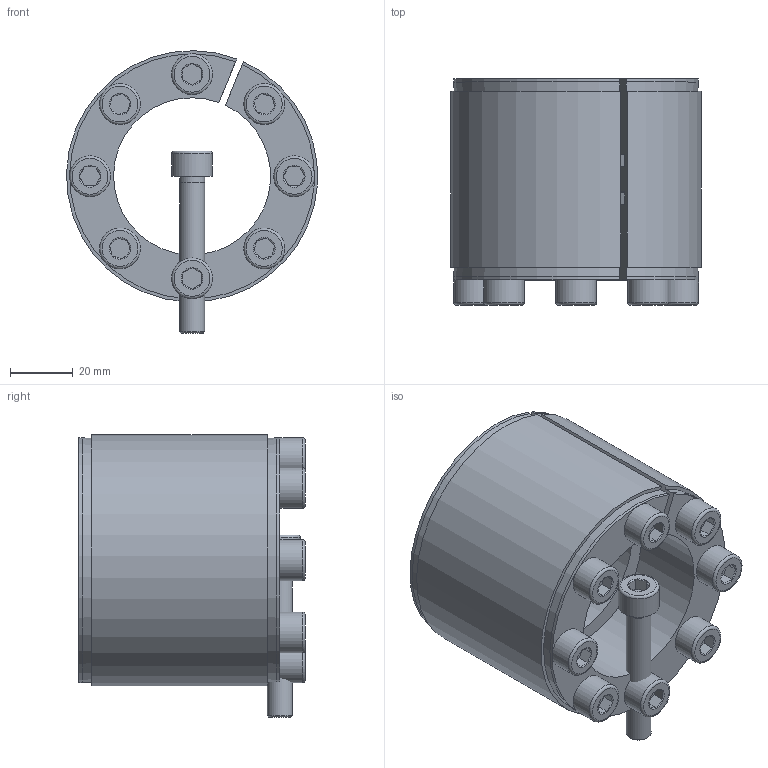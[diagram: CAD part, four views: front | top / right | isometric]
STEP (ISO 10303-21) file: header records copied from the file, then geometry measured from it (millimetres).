
FILE_DESCRIPTION( ( 'Unknown' ), '1' );
FILE_NAME( 'C:/Dokumente und Einstellungen/Sven/Desktop/homepage/cad - homepage/KBS11/KBS 11 - 50 x 80.stp', 'Unknown', ( 'Unknown' ), ( 'Unknown' ), 'XStep 1.0', 'Unknown', ' ' );
FILE_SCHEMA( ( 'automotive_design' ) );
Length unit declared in the file: millimetre
Products named in the file (3): Assem1; KBS 11 - 50 x 80; ISO EN DIN 4762 M8x50
Bounding box: 79.9 x 72 x 89.99 mm (x, y, z)
Volume: 330186.2 mm3; surface area: 123203.5 mm2
Topology: 11 solids, 11 shells, 313 faces, 669 edges, 414 vertices
Faces by surface type: plane 128, cylinder 96, cone 71, torus 18
Full cylindrical faces by diameter (mm): 7 x9, 8 x66, 13 x9
Entity records: 2474 total; most frequent: CARTESIAN_POINT 393, DIRECTION 364, ORIENTED_EDGE 274, AXIS2_PLACEMENT_3D 162, EDGE_LOOP 152, EDGE_CURVE 137, VERTEX_POINT 107, FACE_OUTER_BOUND 99
